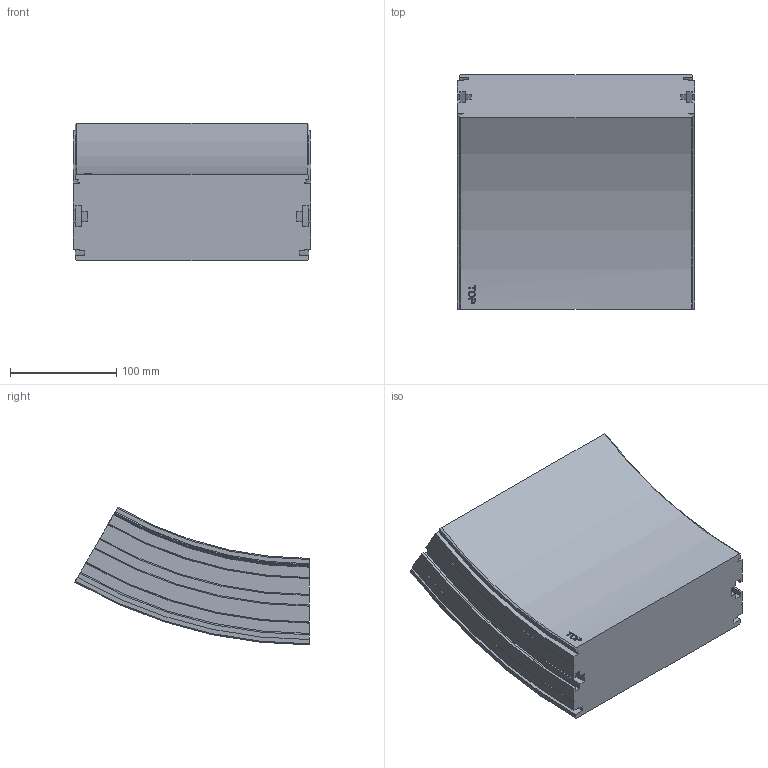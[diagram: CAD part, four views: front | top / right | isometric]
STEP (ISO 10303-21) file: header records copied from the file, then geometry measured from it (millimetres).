
FILE_DESCRIPTION(/* description */ ('VERTIKALKURVA S220 R400'),/* implementation_level */ '2;1');
FILE_NAME(/* name */ '\\carryline.intra\privat\users\mathias\Desktop\Tillfälliga filer\220-5645+220-2000-UPP-01.stp',/* time_stamp */ '2018-11-29T13:43:19+01:00',/* author */ ('MD'),/* organization */ ('CARRYLINE'),/* preprocessor_version */ 'ST-DEVELOPER v17',/* originating_system */ 'Autodesk Inventor 2018',/* authorisation */ '');
FILE_SCHEMA (('AUTOMOTIVE_DESIGN { 1 0 10303 214 3 1 1 }'));
Length unit declared in the file: millimetre
Products named in the file (1): 220-5645+220-2000-UPP-01
Bounding box: 224 x 221 x 129.8 mm (x, y, z)
Volume: 3716540 mm3; surface area: 193868.2 mm2
Topology: 1 solids, 1 shells, 113 faces, 318 edges, 212 vertices
Faces by surface type: plane 48, cylinder 31, bspline 14, cone 14, torus 6
Entity records: 8361 total; most frequent: CARTESIAN_POINT 5393, ORIENTED_EDGE 636, DIRECTION 576, EDGE_CURVE 318, VERTEX_POINT 212, AXIS2_PLACEMENT_3D 199, LINE 178, VECTOR 178
